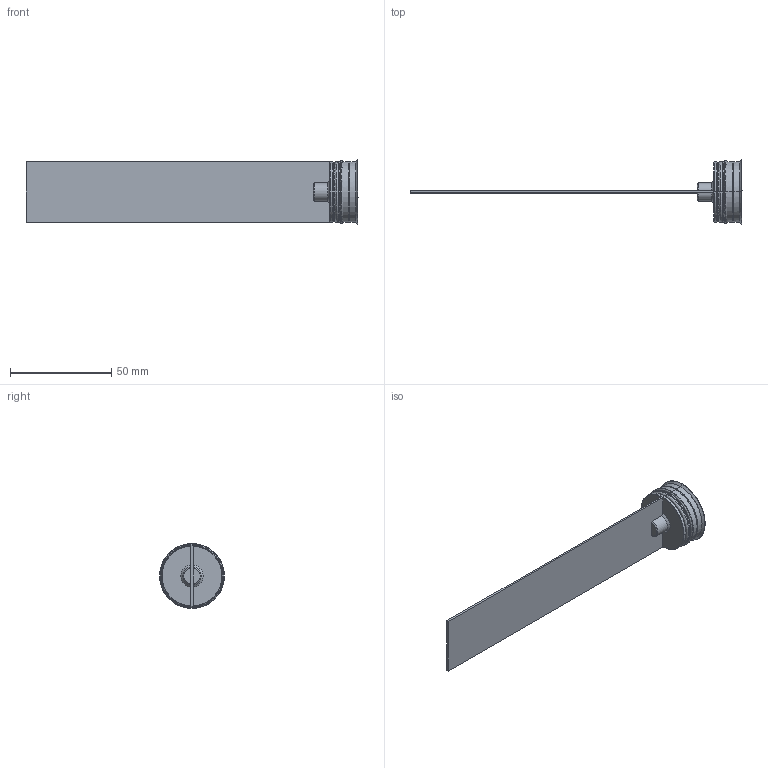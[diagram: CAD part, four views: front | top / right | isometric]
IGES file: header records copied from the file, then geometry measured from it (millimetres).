
Start section: START RECORD GO HERE.
Global section: file name: RL-30Fx150.igs; native system: DASSAULT SYSTEMES CATIA V5 R20 - www.3ds.com; preprocessor: CATIA Version 5 Release 20 ; author: Utente; organization: NB04-ASUS; date: 20210303.200520; units: millimetre
Bounding box: 164 x 32 x 32 mm (x, y, z)
Surface area: 13047.2 mm2 (no closed solid volume)
Topology: 0 solids, 0 shells, 77 faces, 428 edges, 428 vertices
Faces by surface type: revolution 46, plane 31
